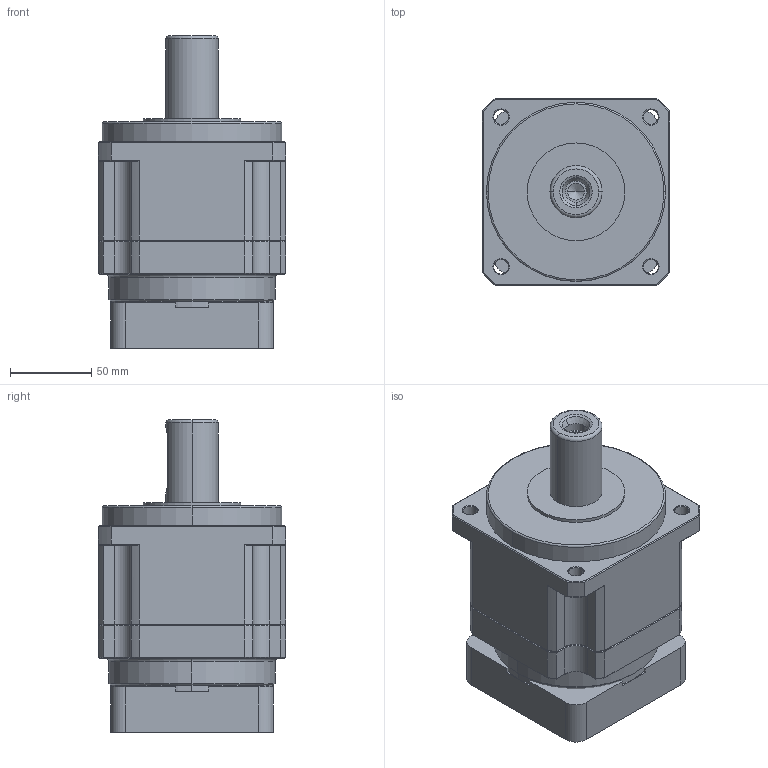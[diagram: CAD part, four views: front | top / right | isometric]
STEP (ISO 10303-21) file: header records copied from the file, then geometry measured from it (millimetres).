
FILE_DESCRIPTION(/* description */ (''),/* implementation_level */ '2;1');
FILE_NAME(/* name */ 'TB115-L1-19-95-115-M8-57-5.stp',/* time_stamp */ '2024-06-07T14:21:38+08:00',/* author */ (''),/* organization */ (''),/* preprocessor_version */ 'ST-DEVELOPER v16',/* originating_system */ 'SIEMENS PLM Software NX 10.0',/* authorisation */ '');
FILE_SCHEMA (('CONFIG_CONTROL_DESIGN'));
Length unit declared in the file: millimetre
Products named in the file (1): _model290
Bounding box: 115 x 115 x 192 mm (x, y, z)
Volume: 1262437.3 mm3; surface area: 165780.4 mm2
Topology: 4 solids, 4 shells, 461 faces, 1125 edges, 682 vertices
Faces by surface type: cylinder 161, plane 146, cone 142, torus 12
Full cylindrical faces by diameter (mm): 60 x1
Entity records: 14270 total; most frequent: CARTESIAN_POINT 3284, DIRECTION 2378, ORIENTED_EDGE 2196, EDGE_CURVE 1098, AXIS2_PLACEMENT_3D 932, VERTEX_POINT 682, EDGE_LOOP 536, LINE 514
